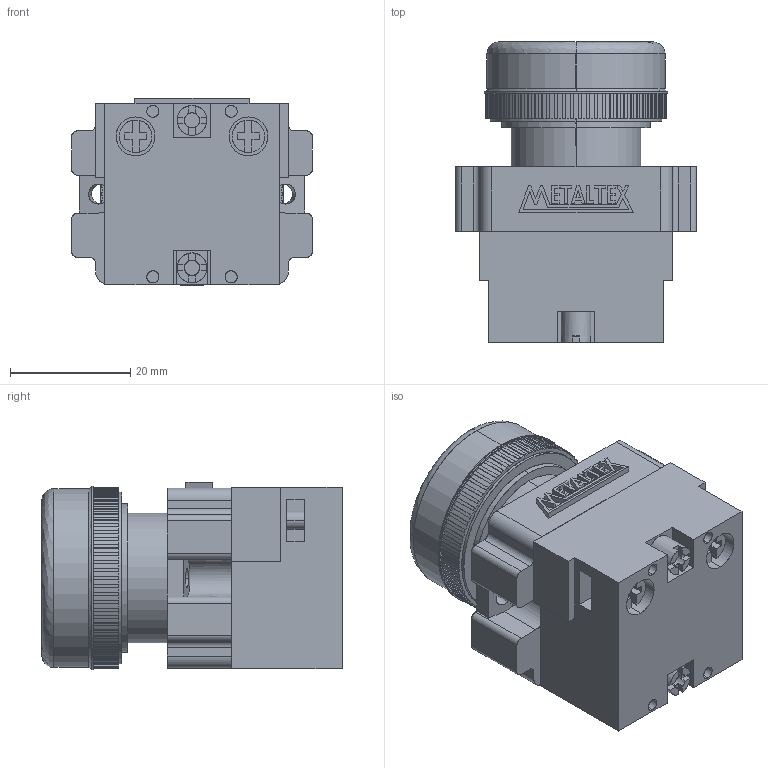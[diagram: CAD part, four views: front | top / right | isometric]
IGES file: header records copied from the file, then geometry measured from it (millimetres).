
Start section: SolidWorks IGES file using analytic representation for surfaces
Global section: file name: D:\X - Arquivos\PROEX\Empresas\P11 - METALTEX\01 - Produtos\IGES\Segunda remessa\M20PR-BL.IGS; native system: SolidWorks 2012; preprocessor: SolidWorks 2012; author: Usuario; date: 180117.122057; units: millimetre
Bounding box: 40 x 49.9 x 31.2 mm (x, y, z)
Surface area: 12057.8 mm2 (no closed solid volume)
Topology: 0 solids, 0 shells, 618 faces, 5562 edges, 5562 vertices
Faces by surface type: bspline 391, revolution 227
